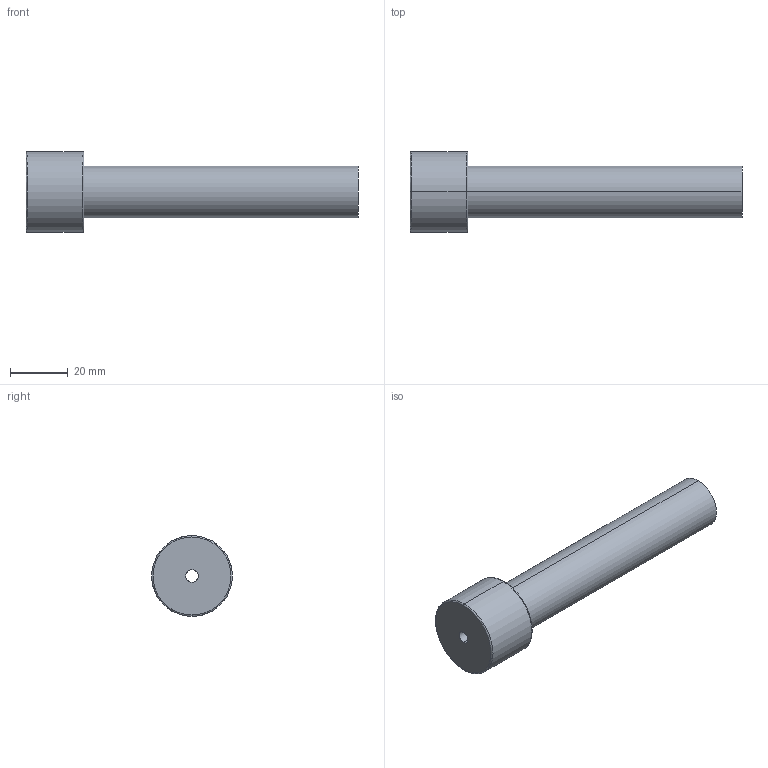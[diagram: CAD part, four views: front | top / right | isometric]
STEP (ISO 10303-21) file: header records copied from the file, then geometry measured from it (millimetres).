
FILE_DESCRIPTION(('CATIA V5 STEP Exchange'),'2;1');
FILE_NAME('C:\Users\Utente\Desktop\IO LAVORO\3D X SITO CF\X SITO\PLASTICA\3D files 367\367F-18X115.stp','2021-03-24T16:00:41+00:00',('none'),('none'),'CATIA Version 5 Release 20 GA (IN-10)','CATIA V5 STEP AP203','none');
FILE_SCHEMA(('CONFIG_CONTROL_DESIGN'));
Length unit declared in the file: millimetre
Products named in the file (1): 367F-18X115
Bounding box: 115 x 28 x 28 mm (x, y, z)
Volume: 31379 mm3; surface area: 10869.1 mm2
Topology: 1 solids, 1 shells, 13 faces, 42 edges, 32 vertices
Faces by surface type: torus 4, cylinder 4, plane 3, cone 2
Entity records: 614 total; most frequent: CARTESIAN_POINT 200, ORIENTED_EDGE 84, DIRECTION 60, AXIS2_PLACEMENT_3D 42, EDGE_CURVE 42, VERTEX_POINT 32, CIRCLE 28, EDGE_LOOP 16
